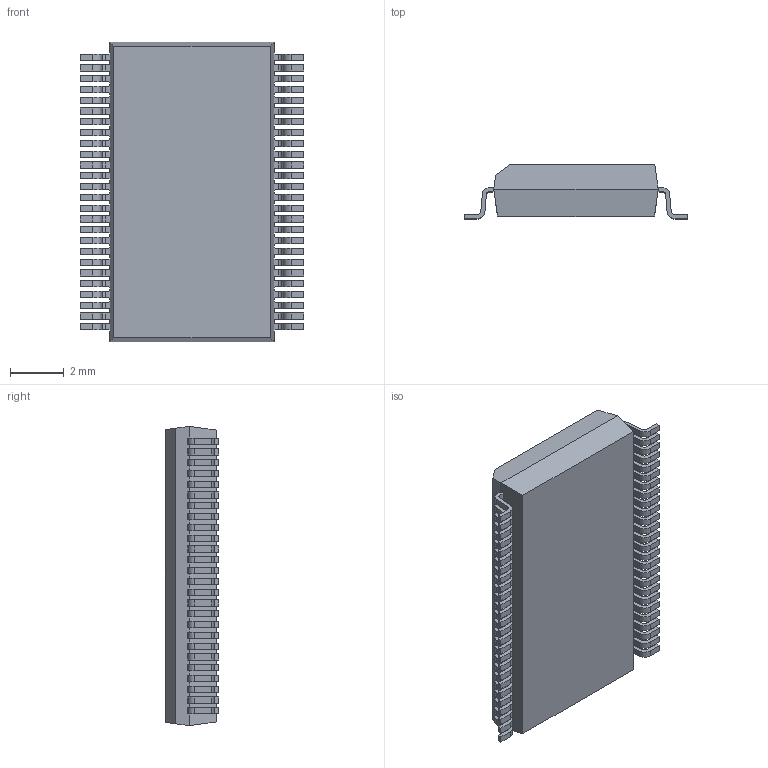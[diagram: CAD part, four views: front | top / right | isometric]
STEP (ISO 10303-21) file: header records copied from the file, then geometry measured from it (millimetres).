
FILE_DESCRIPTION (( 'STEP AP214' ), '1' );
FILE_NAME ('SSOP40P810X200-52_MO-152.FC.STEP', '2014-10-30T11:24:29', ( 'Tester2' ), ( '' ), 'SwSTEP 2.0', 'SolidWorks 2012', '' );
FILE_SCHEMA (( 'AUTOMOTIVE_DESIGN' ));
Length unit declared in the file: millimetre
Products named in the file (1): SSOP40P810X200-52_MO-152.FC
Bounding box: 8.3 x 2 x 11.1 mm (x, y, z)
Volume: 126.7 mm3; surface area: 263.4 mm2
Topology: 1 solids, 1 shells, 690 faces, 2057 edges, 1370 vertices
Faces by surface type: plane 480, cylinder 210
Entity records: 30592 total; most frequent: CARTESIAN_POINT 4118, ORIENTED_EDGE 4114, DIRECTION 3859, EDGE_CURVE 2057, LINE 1637, VECTOR 1637, VERTEX_POINT 1370, AXIS2_PLACEMENT_3D 1111
